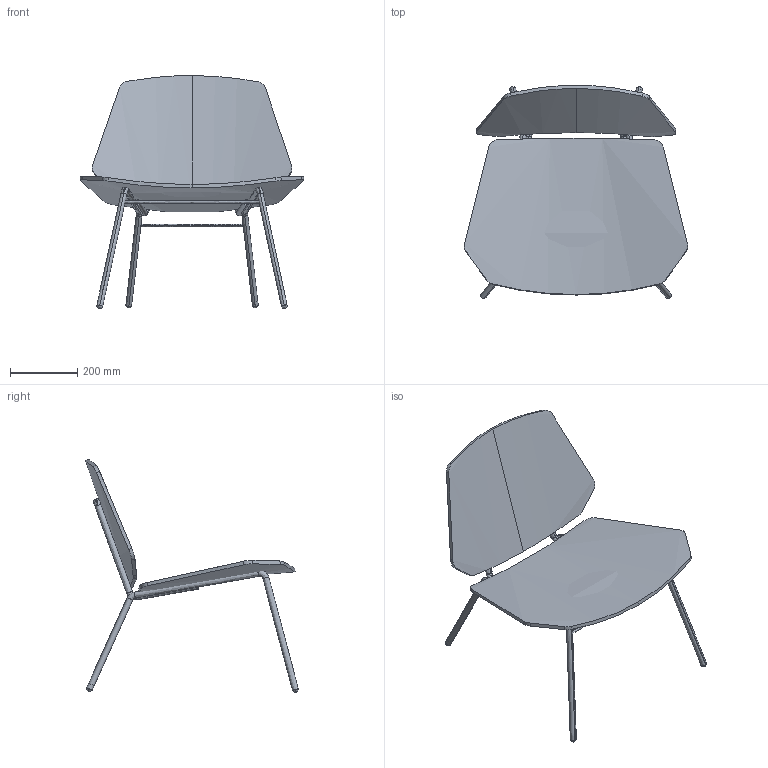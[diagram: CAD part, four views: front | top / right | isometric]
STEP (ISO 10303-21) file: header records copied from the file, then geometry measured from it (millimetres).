
FILE_DESCRIPTION(/* description */ (''),/* implementation_level */ '2;1');
FILE_NAME(/* name */ 'Lean lounge chair',/* time_stamp */ '2019-09-17T11:34:15+02:00',/* author */ (''),/* organization */ (''),/* preprocessor_version */ 'ST-DEVELOPER v15',/* originating_system */ '',/* authorisation */ '');
FILE_SCHEMA (('AUTOMOTIVE_DESIGN'));
Length unit declared in the file: millimetre
Products named in the file (1): Document
Bounding box: 661.63 x 631.03 x 690.02 mm (x, y, z)
Surface area: 1318209.9 mm2 (no closed solid volume)
Topology: 0 solids, 266 shells, 266 faces, 1368 edges, 1354 vertices
Faces by surface type: bspline 212, plane 54
Entity records: 33725 total; most frequent: CARTESIAN_POINT 24934, ORIENTED_EDGE 1354, EDGE_CURVE 1354, VERTEX_POINT 1354, B_SPLINE_CURVE_WITH_KNOTS 720, EDGE_LOOP 316, COLOUR_RGB 266, FILL_AREA_STYLE_COLOUR 266
